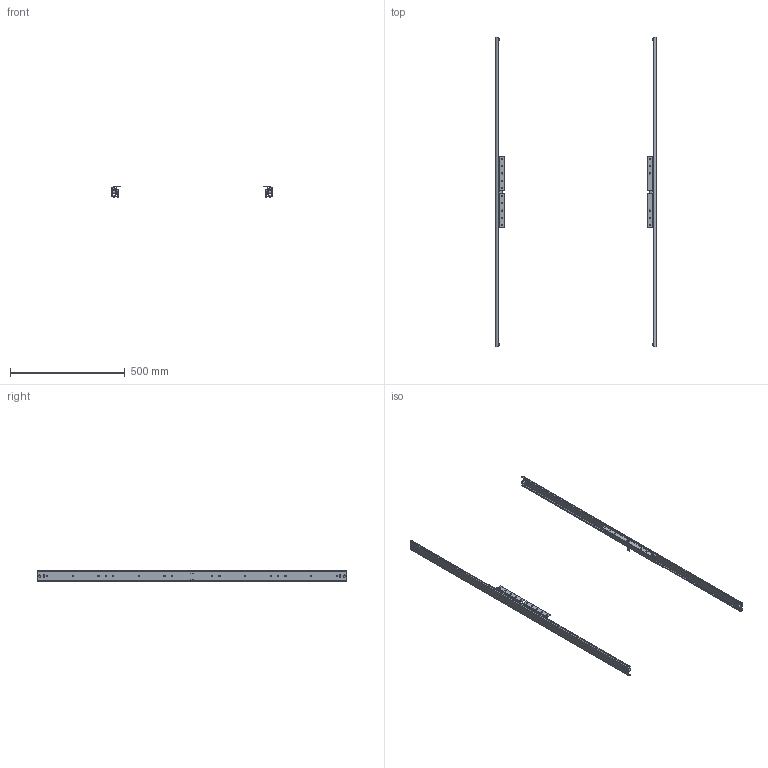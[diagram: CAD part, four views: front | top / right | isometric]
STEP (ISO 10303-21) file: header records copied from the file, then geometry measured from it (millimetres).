
FILE_DESCRIPTION( ( '' ), '1' );
FILE_NAME( 'D:/HETTCAD 2014/DATA TRANSFER/AUTOCAD EXPORT/SENT/Sheet m_6/sent/9131984/9079741.stp', '2014-06-20T06:13:48', ( '' ), ( '' ), ' ', ' ', ' ' );
FILE_SCHEMA( ( 'CONFIG_CONTROL_DESIGN' ) );
Length unit declared in the file: millimetre
Products named in the file (2): 1; 2
Bounding box: 700 x 1350 x 50.9 mm (x, y, z)
Volume: 474513.9 mm3; surface area: 450882.1 mm2
Topology: 2 solids, 2 shells, 268 faces, 764 edges, 504 vertices
Faces by surface type: plane 136, cylinder 132
Entity records: 9104 total; most frequent: DIRECTION 1568, CARTESIAN_POINT 1538, ORIENTED_EDGE 1528, EDGE_CURVE 764, AXIS2_PLACEMENT_3D 534, VERTEX_POINT 504, LINE 500, VECTOR 500
